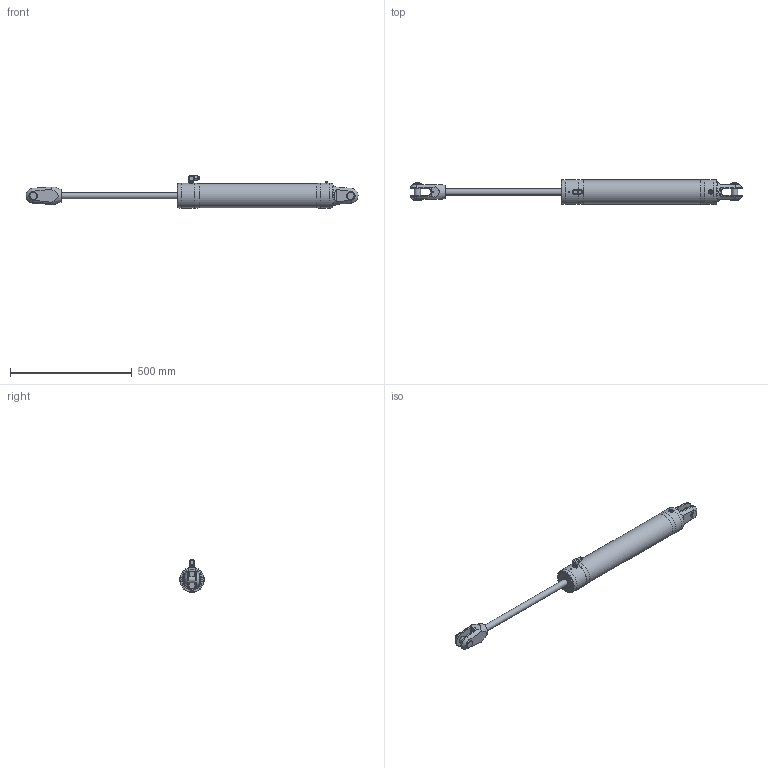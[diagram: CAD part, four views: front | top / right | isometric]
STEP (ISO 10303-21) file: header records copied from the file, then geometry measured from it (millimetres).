
FILE_DESCRIPTION(/* description */ (''),/* implementation_level */ '2;1');
FILE_NAME(/* name */ 'Q:\AA BRAND HYDRAULICS\HYDRAULICS FAMILY DIRECTORY\HYDRAULICS\CYLINDERS\RAMS\ALUMINIUM - STANDARD SINGLE ACTING (-0006 To -0260)\RSA-0040-S0475-NP-71\RSA-0040-S0475-NP-71 (Open).stp',/* time_stamp */ '2017-11-30T12:15:17+00:00',/* author */ ('Lorena'),/* organization */ (''),/* preprocessor_version */ 'ST-DEVELOPER v16.13',/* originating_system */ 'Autodesk Inventor 2018',/* authorisation */ '');
FILE_SCHEMA (('AUTOMOTIVE_DESIGN { 1 0 10303 214 3 1 1 }'));
Products named in the file (1): RSA-0040-S0475-NP-71 (Open)
Bounding box: 1362.74 x 102.2 x 133 mm (x, y, z)
Volume: 5871226.7 mm3; surface area: 341222.1 mm2
Topology: 1 solids, 4 shells, 1613 faces, 4273 edges, 2818 vertices
Faces by surface type: plane 894, bspline 573, cylinder 81, cone 56, torus 5, sphere 4
Full cylindrical faces by diameter (mm): 4 x1, 4.134 x1, 4.2 x2, 5 x1, 5.1 x1, 5.9 x1, 7 x1, 8 x2, 9 x3, 10 x2, 11.157 x1, 11.8 x1, 12 x1, 12.157 x1, 12.77 x1, 13 x1, 13.157 x2, 14.5 x2, 16 x2, 18.3 x2, 22 x1, 25.4 x2, 26 x1, 31.75 x2, 62 x1, 99.2 x1, 102.2 x4
Entity records: 56369 total; most frequent: CARTESIAN_POINT 19108, ORIENTED_EDGE 8304, DIRECTION 5285, EDGE_CURVE 4152, VERTEX_POINT 2783, LINE 2681, VECTOR 2681, EDGE_LOOP 1854
